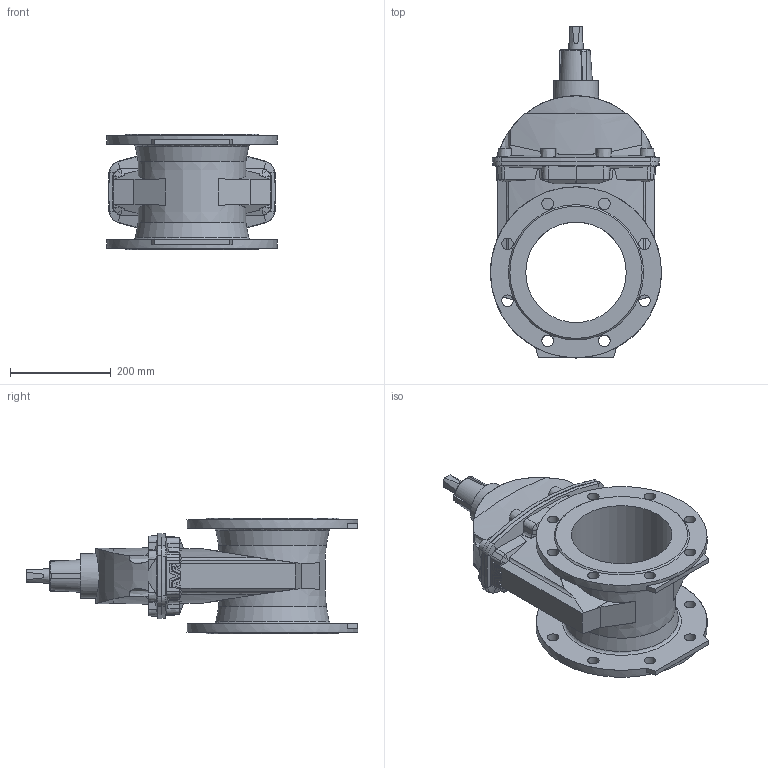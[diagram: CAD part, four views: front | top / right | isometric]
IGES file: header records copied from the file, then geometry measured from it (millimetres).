
Start section: SolidWorks IGES file using analytic representation for surfaces
Global section: file name: \\avksan2\techshare\PBM outline export from Enovia\O_06_80_DN200_X0XXX99_REV01.igs; native system: SolidWorks 2019; preprocessor: SolidWorks 2019; author: pbm; date: 200325.110011; units: millimetre
Bounding box: 340 x 660.06 x 230 mm (x, y, z)
Surface area: 923783.7 mm2 (no closed solid volume)
Topology: 0 solids, 0 shells, 330 faces, 1799 edges, 1757 vertices
Faces by surface type: revolution 174, bspline 156
